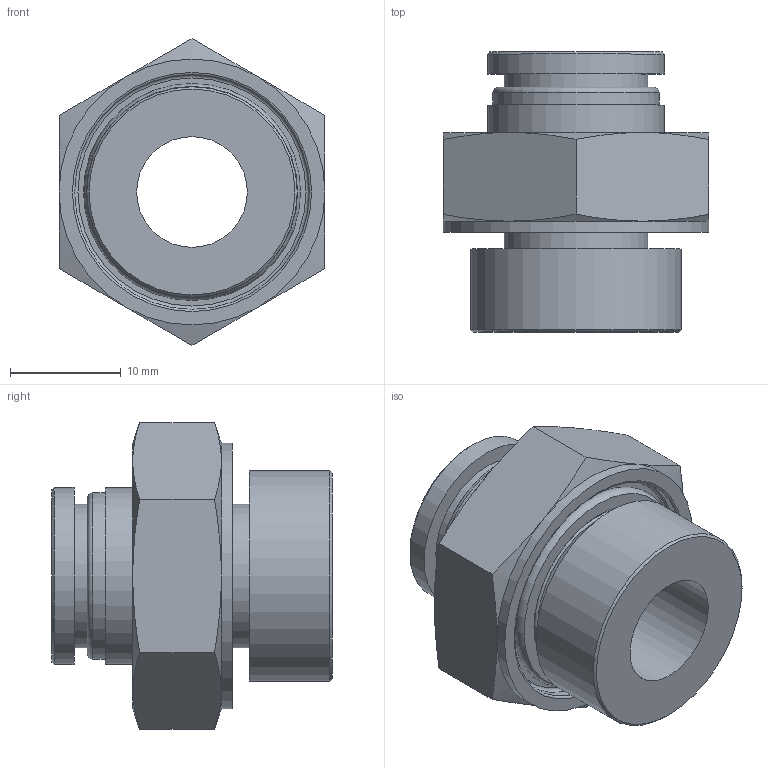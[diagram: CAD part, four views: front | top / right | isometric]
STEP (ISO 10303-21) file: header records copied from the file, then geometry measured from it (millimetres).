
FILE_DESCRIPTION(/* description */ (''),/* implementation_level */ '2;1');
FILE_NAME(/* name */ 'LXH18 0012 B4.stp',/* time_stamp */ '2026-04-20T19:49:02+02:00',/* author */ ('freju'),/* organization */ (''),/* preprocessor_version */ 'ST-DEVELOPER v20.1',/* originating_system */ 'Autodesk Inventor 2026',/* authorisation */ '');
FILE_SCHEMA (('AUTOMOTIVE_DESIGN { 1 0 10303 214 3 1 1 }'));
Length unit declared in the file: millimetre
Products named in the file (4): LXH18 0012 B4; LXH18 0012 B4_1; O-Ring; ISO 3601-1 - A 0160 G
Assembly tree (3 placements, depth 3):
  LXH18 0012 B4
    LXH18 0012 B4_1
    O-Ring
      ISO 3601-1 - A 0160 G
Bounding box: 24 x 25.3 x 27.71 mm (x, y, z)
Volume: 5615.4 mm3; surface area: 4120.9 mm2
Topology: 2 solids, 2 shells, 51 faces, 101 edges, 63 vertices
Faces by surface type: plane 19, cone 14, cylinder 11, torus 7
Full cylindrical faces by diameter (mm): 10 x1, 12 x1, 13 x2, 15 x1, 16 x3, 19 x1, 21.2 x1, 24 x1
Entity records: 1455 total; most frequent: CARTESIAN_POINT 270, DIRECTION 251, ORIENTED_EDGE 202, AXIS2_PLACEMENT_3D 116, EDGE_CURVE 101, EDGE_LOOP 64, VERTEX_POINT 63, CIRCLE 58
